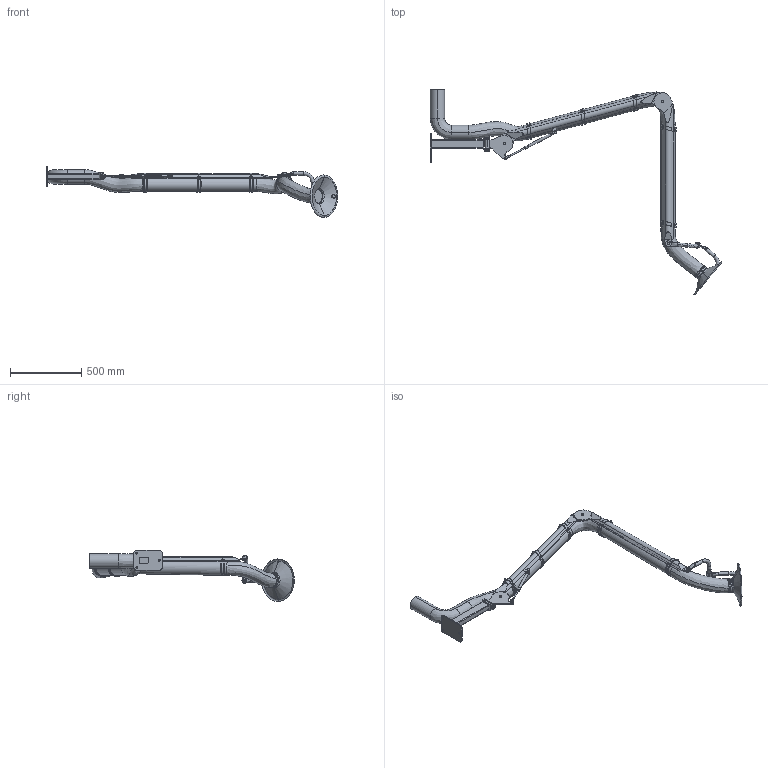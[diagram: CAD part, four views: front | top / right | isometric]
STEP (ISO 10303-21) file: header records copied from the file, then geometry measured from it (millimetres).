
FILE_DESCRIPTION((''),'2;1');
FILE_NAME('PSS_3000-100','2023-02-07T15:03:40',('Tomas Bellgran'),(''),'CREO PARAMETRIC BY PTC INC, 2018260','CREO PARAMETRIC BY PTC INC, 2018260','');
FILE_SCHEMA(('AUTOMOTIVE_DESIGN { 1 0 10303 214 1 1 1 1 }'));
Length unit declared in the file: millimetre
Products named in the file (31): 131085_LIGHT; 131041; 131045_LIGHT; 131045; 144355; 131150; 139380; 131151; 131170; 144356; 141589; 134343_AF0; G_P136_WELD-REF; 141590; 122717_LIGHT; 130317; ROD_STAB_8-160-REF; 131095; 130322_AF0; 131145; 131131_AF0; 131134_AF0; 131139; 107520; 132676; SKRUVSATS_LITEN; SKRUVSATS_BIG; SKRUVSATS_LITEN-2; SKRUVSATS_BIGGEST; 120127_COMPL_LIGHT; PSS_3000-100
Assembly tree (48 placements, depth 3):
  PSS_3000-100
    131041
      131085_LIGHT
    131045
      131045_LIGHT
    144355  x4
    131150
    131170
      139380
      131151
    144356  x2
    141590
      141589
      134343_AF0
      G_P136_WELD-REF
    122717_LIGHT
    130322_AF0
      130317
      ROD_STAB_8-160-REF
      131095  x2
    131145  x2
    131139  x5
      131131_AF0
      131134_AF0
    107520  x5
    132676
    SKRUVSATS_LITEN  x2
    SKRUVSATS_BIG  x2
    SKRUVSATS_LITEN-2  x2
    SKRUVSATS_BIGGEST  x2
    120127_COMPL_LIGHT
Bounding box: 2046.38 x 1437.18 x 359.45 mm (x, y, z)
Volume: 29160361.1 mm3; surface area: 2118881.9 mm2
Topology: 46 solids, 47 shells, 1096 faces, 2645 edges, 1813 vertices
Faces by surface type: plane 353, cylinder 338, bspline 308, torus 48, cone 42, extrusion 5, sphere 2
Entity records: 40320 total; most frequent: CARTESIAN_POINT 16554, DIRECTION 3102, ORIENTED_EDGE 2732, PRESENTATION_STYLE_ASSIGNMENT 1975, STYLED_ITEM 1948, CURVE_STYLE 1500, EDGE_CURVE 1366, AXIS2_PLACEMENT_3D 1209
